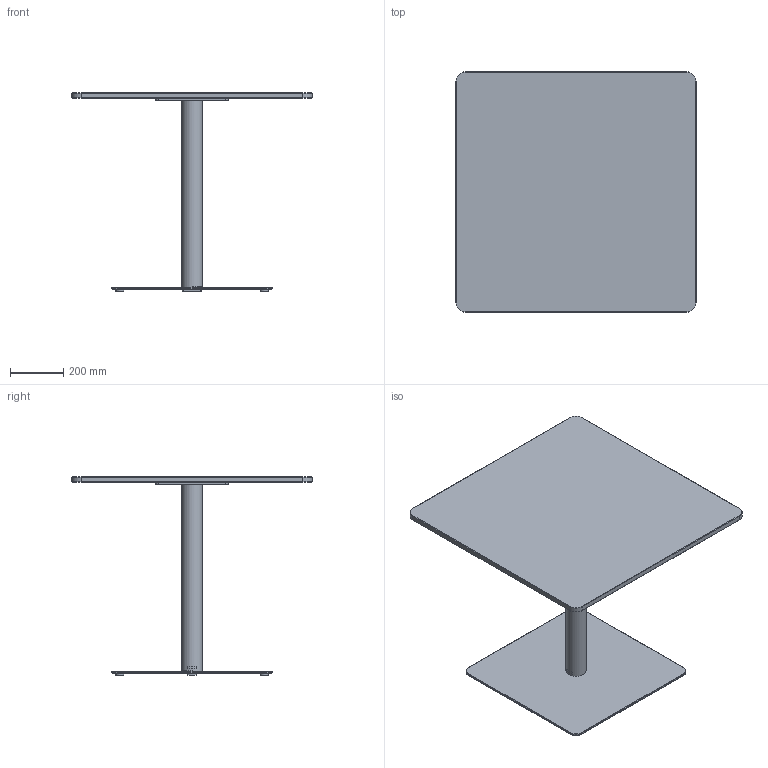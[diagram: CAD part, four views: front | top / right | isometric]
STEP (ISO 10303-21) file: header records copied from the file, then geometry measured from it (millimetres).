
FILE_DESCRIPTION( ('This file contains a STEP AP42 implementation' ,'as created by ZW3D STEP Interface translator.') ,'2;1' );
FILE_NAME( 'Henri - B_Carré - F3 - M1 - 900 x 900 x 750.stp' ,'24 912.17 6 6', (''), ('ZWCAD Software Co.'), 'Version 1.0', 'ZW3D to STEP translator', '' );
FILE_SCHEMA(('AUTOMOTIVE_DESIGN { 1 0 10303 214 1 1 1 1 }'));
Length unit declared in the file: millimetre
Products named in the file (14): 0; PIED BISTROT PARAMETRIQUE_; COLONNE ACIER Ø76 V.02_; TUB-D076-02_; PLA-R76B-01_; CROIX ACIER 370 V.02_; CRX-X370-02_; SOCLE ACIER L 600x600 V.02_; SCL-R600-02_; PLA-R30A-01_; PLA-R30A-01; WUERTH 0276063020 Euro-screw 6.3x2 Verzinkt_; PLATEAU BISTROT PARAMETRIQUE_; insert_m6_13_
Assembly tree (22 placements, depth 3):
  0
  PIED BISTROT PARAMETRIQUE_
    COLONNE ACIER Ø76 V.02_
      TUB-D076-02_
      PLA-R76B-01_  x2
    CROIX ACIER 370 V.02_
      CRX-X370-02_
    SOCLE ACIER L 600x600 V.02_
      SCL-R600-02_
      PLA-R30A-01_
      PLA-R30A-01  x3
    WUERTH 0276063020 Euro-screw 6.3x2 Verzinkt_
    PLATEAU BISTROT PARAMETRIQUE_
      insert_m6_13_  x8
Bounding box: 900 x 900 x 744 mm (x, y, z)
Volume: 19982237.6 mm3; surface area: 2938872.5 mm2
Topology: 19 solids, 19 shells, 537 faces, 1310 edges, 822 vertices
Faces by surface type: plane 262, bspline 121, cylinder 98, cone 55, torus 1
Full cylindrical faces by diameter (mm): 4.88 x1, 6 x8, 6.3 x1, 8 x45, 12 x2, 14 x2, 30 x4, 72 x1, 76 x1
Entity records: 12310 total; most frequent: CARTESIAN_POINT 3396, ORIENTED_EDGE 1624, DIRECTION 1519, EDGE_CURVE 812, VERTEX_POINT 518, VECTOR 513, LINE 513, AXIS2_PLACEMENT_3D 503
